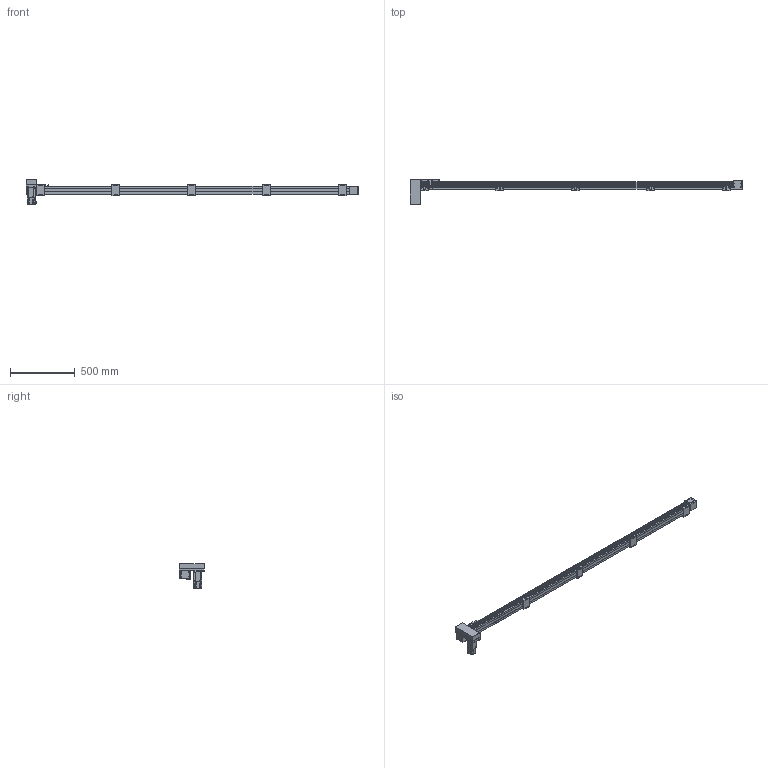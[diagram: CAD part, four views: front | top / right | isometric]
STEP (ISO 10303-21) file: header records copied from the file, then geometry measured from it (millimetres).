
FILE_DESCRIPTION(/* description */ ('STEP AP214'),/* implementation_level */ '2;1');
FILE_NAME(/* name */ 'SK60-P13-S2250-RD-T40-C1-N(0)',/* time_stamp */ '2023-04-06T04:56:48+02:00',/* author */ ('License CC BY-ND 4.0'),/* organization */ ('CADENAS'),/* preprocessor_version */ 'ST-DEVELOPER v19.3',/* originating_system */ 'PARTsolutions',/* authorisation */ ' ');
FILE_SCHEMA (('AUTOMOTIVE_DESIGN {1 0 10303 214 3 1 1}'));
Length unit declared in the file: millimetre
Products named in the file (10): SK60-P13-S2250-RD-T40-C1-N(0); PSC140-sensor; SK60-S450_seat; SK60-S450-BL-C1_slider; SK60_body3; SK60_body6; SK60-BL_body2; T40-p1; SK60-RD_fb; SK60-S2250-RD-C1_body
Assembly tree (19 placements, depth 2):
  SK60-P13-S2250-RD-T40-C1-N(0)
    PSC140-sensor  x3
    SK60-S450_seat  x5
    SK60-S450-BL-C1_slider
    SK60_body3  x3
    SK60_body6  x2
    SK60-BL_body2  x2
    T40-p1
    SK60-RD_fb
    SK60-S2250-RD-C1_body
Bounding box: 2555.5 x 199 x 189.7 mm (x, y, z)
Volume: 9879059.1 mm3; surface area: 1173624.3 mm2
Topology: 19 solids, 19 shells, 942 faces, 2342 edges, 1541 vertices
Faces by surface type: plane 596, cylinder 310, cone 34, torus 2
Full cylindrical faces by diameter (mm): 2.8 x3, 3.3 x4, 4 x2, 4.5 x30, 4.6 x3, 4.917 x28, 5 x6, 5.478 x4, 5.5 x31, 6.5 x10, 7 x2, 8 x4, 8.5 x4, 9.988 x4, 10 x20, 14 x1, 47 x3, 50 x2
Entity records: 18679 total; most frequent: DIRECTION 3190, CARTESIAN_POINT 3153, ORIENTED_EDGE 2940, EDGE_CURVE 1470, AXIS2_PLACEMENT_3D 1071, LINE 1048, VECTOR 1048, VERTEX_POINT 1034
